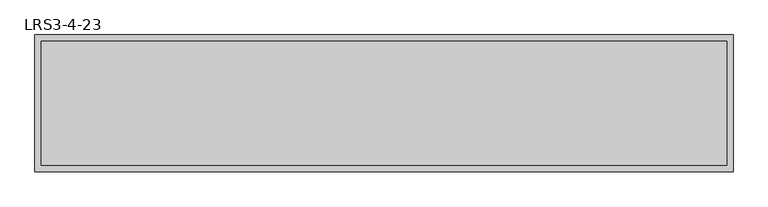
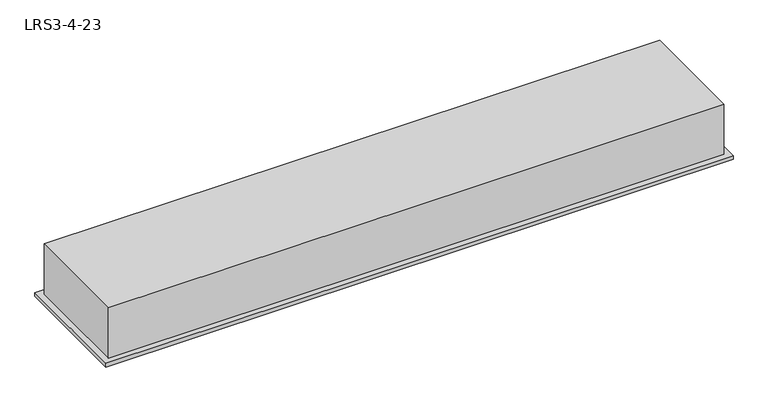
"""IFC4 building model written with IfcOpenShell, lengths in millimetres: light fixture geometry, 20401_RS3_ベースライト形_埋込天井灯 : LRS3-4-23."""

import ifcopenshell
import ifcopenshell.guid

model = None  # the IFC model being written
_history = None  # IfcOwnerHistory: only IFC2X3 demands one
_inside = {}  # id of a spatial element -> (the spatial element, [elements in it])
_under = {}  # id of a project, library or spatial element -> (it, [spatial elements below it])
_declared = {}  # id of a project -> (the project, [libraries it declares])
_typed = {}  # id of a type object -> (the type object, [elements of that type])
_made_of = {}  # id of a material, layer set ... -> (it, [elements and type objects made of it])


def new_model(schema):
    """Start an empty IFC model of exactly this schema.

    Asked for "IFC4X3", IfcOpenShell would pick the latest addendum, in which some entities
    have other attributes; the version numbers below select the first issue.
    IFC2X3 requires an IfcOwnerHistory on every rooted entity: one is made here for all.
    """
    global model, _history
    if schema == "IFC4X3":
        model = ifcopenshell.file(schema_version=(4, 3, 0, 0))
    else:
        model = ifcopenshell.file(schema=schema)
    _inside.clear()
    _under.clear()
    _declared.clear()
    _typed.clear()
    _made_of.clear()
    _history = None
    if model.schema == "IFC2X3":
        org = make("IfcOrganization", Name="unknown")
        user = make(
            "IfcPersonAndOrganization",
            ThePerson=make("IfcPerson", FamilyName="unknown"),
            TheOrganization=org,
        )
        app = make(
            "IfcApplication",
            ApplicationDeveloper=org,
            Version="unknown",
            ApplicationFullName="unknown",
            ApplicationIdentifier="unknown",
        )
        _history = make(
            "IfcOwnerHistory",
            OwningUser=user,
            OwningApplication=app,
            ChangeAction="ADDED",
            CreationDate=0,
        )
    return model


def make(cls, **values):
    """One entity of the class cls with the attributes given. An attribute that is None is left unset."""
    return model.create_entity(
        cls, **{name: value for name, value in values.items() if value is not None}
    )


def rooted(cls, **values):
    """An entity with a GlobalId (a new one), such as an element, a storey or a relation."""
    return make(cls, GlobalId=ifcopenshell.guid.new(), OwnerHistory=_history, **values)


def si_unit(unit_type, name, prefix=None):
    """IfcSIUnit, for example si_unit("LENGTHUNIT", "METRE", prefix="MILLI")."""
    return make("IfcSIUnit", UnitType=unit_type, Prefix=prefix, Name=name)


def assignment(units):
    """IfcUnitAssignment: the units of a project."""
    return None if units is None else make("IfcUnitAssignment", Units=units)


def point(xyz):
    """IfcCartesianPoint."""
    return None if xyz is None else make("IfcCartesianPoint", Coordinates=xyz)


def direction(xyz):
    """IfcDirection."""
    return None if xyz is None else make("IfcDirection", DirectionRatios=xyz)


def frame(location, z_axis=None, x_axis=None):
    """IfcAxis2Placement3D, a coordinate frame: its origin and axes. An axis left out is left unset."""
    return make(
        "IfcAxis2Placement3D",
        Location=point(location),
        Axis=direction(z_axis),
        RefDirection=direction(x_axis),
    )


def frame_2d(location, x_axis=None):
    """IfcAxis2Placement2D, a coordinate frame in the plane: its origin and x axis."""
    return make(
        "IfcAxis2Placement2D", Location=point(location), RefDirection=direction(x_axis)
    )


def origin():
    """The frame at (0, 0, 0) with its axes left unset."""
    return frame((0.0, 0.0, 0.0))


def place(relative_to, where):
    """IfcLocalPlacement: puts the frame where relative to a parent placement (None: the world)."""
    return make(
        "IfcLocalPlacement", PlacementRelTo=relative_to, RelativePlacement=where
    )


def context(
    kind, dimensions, precision=None, world=None, true_north=None, identifier=None
):
    """IfcGeometricRepresentationContext, for example the 3D "Model" context."""
    return make(
        "IfcGeometricRepresentationContext",
        ContextIdentifier=identifier,
        ContextType=kind,
        CoordinateSpaceDimension=dimensions,
        Precision=precision,
        WorldCoordinateSystem=world,
        TrueNorth=true_north,
    )


def project(units=None, contexts=None):
    """IfcProject with its units and contexts."""
    return rooted(
        "IfcProject",
        Name="project",
        RepresentationContexts=contexts,
        UnitsInContext=assignment(units),
    )


def spatial(cls, under=None, at=None, **own):
    """A site, building, storey or space (cls), placed at a placement, below another one or the project."""
    s = rooted(cls, ObjectPlacement=at, **own)
    if under is not None:
        _under.setdefault(under.id(), (under, []))[1].append(s)
    return s


def polyline(points):
    """IfcPolyline through the points."""
    return make("IfcPolyline", Points=[point(p) for p in points])


def circle_curve(where, radius):
    """IfcCircle in the frame where."""
    return make("IfcCircle", Position=where, Radius=radius)


def trimmed(basis, trim1, trim2, sense, master):
    """IfcTrimmedCurve: the piece of a basis curve between two trims."""
    return make(
        "IfcTrimmedCurve",
        BasisCurve=basis,
        Trim1=trim1,
        Trim2=trim2,
        SenseAgreement=sense,
        MasterRepresentation=master,
    )


def segment(curve, same_sense, transition):
    """IfcCompositeCurveSegment."""
    return make(
        "IfcCompositeCurveSegment",
        Transition=transition,
        SameSense=same_sense,
        ParentCurve=curve,
    )


def composite_curve(segments, self_intersect=None):
    """IfcCompositeCurve: segments joined end to end."""
    return make("IfcCompositeCurve", Segments=segments, SelfIntersect=self_intersect)


def outline(outer, holes=None, kind="AREA"):
    """IfcArbitraryClosedProfileDef: a profile drawn as a closed curve; with holes, ...WithVoids."""
    if holes is None:
        return make("IfcArbitraryClosedProfileDef", ProfileType=kind, OuterCurve=outer)
    return make(
        "IfcArbitraryProfileDefWithVoids",
        ProfileType=kind,
        OuterCurve=outer,
        InnerCurves=holes,
    )


def extrude(swept, where, along, depth):
    """IfcExtrudedAreaSolid: the profile swept, set in the frame where, extruded along a direction by depth."""
    return make(
        "IfcExtrudedAreaSolid",
        SweptArea=swept,
        Position=where,
        ExtrudedDirection=direction(along),
        Depth=depth,
    )


def faces_of(points, faces, orient=None, outer=None):
    """IfcFace entities. A face is a list of loops; a loop is a list of indices into points, from 0.

    orient and outer hold one flag for each loop. By default every Orientation is true, the
    first loop of a face is its IfcFaceOuterBound and the others are IfcFaceBound.
    """
    made = []
    for i, loops in enumerate(faces):
        bounds = []
        for j, loop in enumerate(loops):
            is_outer = j == 0 if outer is None else outer[i][j]
            bounds.append(
                make(
                    "IfcFaceOuterBound" if is_outer else "IfcFaceBound",
                    Bound=make("IfcPolyLoop", Polygon=[points[k] for k in loop]),
                    Orientation=True if orient is None else orient[i][j],
                )
            )
        made.append(make("IfcFace", Bounds=bounds))
    return made


def faceted_brep(points, faces, orient=None, outer=None, voids=None):
    """IfcFacetedBrep: a solid bounded by flat faces; with voids (closed shells), ...WithVoids."""
    shared = [point(p) for p in points]
    hull = make("IfcClosedShell", CfsFaces=faces_of(shared, faces, orient, outer))
    if voids is None:
        return make("IfcFacetedBrep", Outer=hull)
    return make(
        "IfcFacetedBrepWithVoids",
        Outer=hull,
        Voids=[
            make(cls, CfsFaces=faces_of(shared, fs, o, b)) for cls, fs, o, b in voids
        ],
    )


def shape(context_of_items, identifier, shape_type, items):
    """IfcShapeRepresentation: the items that make up one representation, for example the "Body"."""
    return make(
        "IfcShapeRepresentation",
        ContextOfItems=context_of_items,
        RepresentationIdentifier=identifier,
        RepresentationType=shape_type,
        Items=items,
    )


def source(mapping_origin, context_of_items, identifier, shape_type, items):
    """IfcRepresentationMap: a shape defined once, which mapped items show again and again."""
    return make(
        "IfcRepresentationMap",
        MappingOrigin=mapping_origin,
        MappedRepresentation=shape(context_of_items, identifier, shape_type, items),
    )


def transform(
    local_origin,
    x_axis=None,
    y_axis=None,
    z_axis=None,
    scale=None,
    scale2=None,
    scale3=None,
    uniform=True,
):
    """IfcCartesianTransformationOperator3D, or its non-uniform kind. x_axis, y_axis, z_axis: its Axis1, 2, 3."""
    if uniform:
        return make(
            "IfcCartesianTransformationOperator3D",
            Axis1=direction(x_axis),
            Axis2=direction(y_axis),
            LocalOrigin=point(local_origin),
            Scale=scale,
            Axis3=direction(z_axis),
        )
    return make(
        "IfcCartesianTransformationOperator3DnonUniform",
        Axis1=direction(x_axis),
        Axis2=direction(y_axis),
        LocalOrigin=point(local_origin),
        Scale=scale,
        Axis3=direction(z_axis),
        Scale2=scale2,
        Scale3=scale3,
    )


def mapped(mapping_source, mapping_target):
    """IfcMappedItem: shows the shape of a source again, moved by a transform."""
    return make(
        "IfcMappedItem", MappingSource=mapping_source, MappingTarget=mapping_target
    )


def made_of(thing, what):
    """Note that an element or type object is made of a material, layer set ...; save() writes the relation."""
    if what is not None:
        _made_of.setdefault(what.id(), (what, []))[1].append(thing)
    return thing


def element(
    cls,
    number,
    at=None,
    inside=None,
    cuts=None,
    type_object=None,
    material=None,
    context=None,
    identifier="Body",
    shape_type=None,
    held_by="IfcProductDefinitionShape",
    body=None,
    shapes=None,
    **own,
):
    """One element of the class cls, such as IfcWall. Its Tag is "e" and its number.

    at: its placement. inside: the storey or other place that contains it. cuts: it is an
    opening in that element (IfcRelVoidsElement). A single representation is given by context,
    identifier, shape_type and body (its items); several are given by shapes. held_by: the class
    of the entity that holds the representations. save() writes the other relations.
    """
    e = rooted(cls, Tag="e%d" % number, ObjectPlacement=at, **own)
    if body is not None:
        shapes = [shape(context, identifier, shape_type, body)]
    if shapes is not None:
        e.Representation = make(held_by, Representations=shapes)
    if inside is not None:
        _inside.setdefault(inside.id(), (inside, []))[1].append(e)
    if cuts is not None:
        rooted(
            "IfcRelVoidsElement", RelatingBuildingElement=cuts, RelatedOpeningElement=e
        )
    if type_object is not None:
        _typed.setdefault(type_object.id(), (type_object, []))[1].append(e)
    return made_of(e, material)


def aggregate(whole, parts):
    """IfcRelAggregates: a whole, such as a stair, and the parts it consists of."""
    return rooted("IfcRelAggregates", RelatingObject=whole, RelatedObjects=parts)


def save(model, path):
    """Write the relations noted so far, then the file.

    IfcRelAggregates (storeys below a building ...), IfcRelContainedInSpatialStructure (elements
    in a storey), IfcRelDefinesByType, IfcRelAssociatesMaterial and IfcRelDeclares: one each for
    every whole, place, type object, material and project.
    """
    for whole, parts in _under.values():
        aggregate(whole, parts)
    for where, things in _inside.values():
        rooted(
            "IfcRelContainedInSpatialStructure",
            RelatedElements=things,
            RelatingStructure=where,
        )
    for kind, things in _typed.values():
        rooted("IfcRelDefinesByType", RelatedObjects=things, RelatingType=kind)
    for what, things in _made_of.values():
        rooted("IfcRelAssociatesMaterial", RelatedObjects=things, RelatingMaterial=what)
    for by, libraries in _declared.values():
        rooted("IfcRelDeclares", RelatingContext=by, RelatedDefinitions=libraries)
    model.write(path)


def lrs3_4_23_6d0beab3(model_context):
    return source(origin(), model_context, "Body", "SolidModel", [
        extrude(outline(composite_curve([segment(trimmed(circle_curve(frame_2d((0.0229203, 51.1288677)), 50.1288729), [point((37.6444836, 18.0))], [point((-37.5986431, 18.0))], False, "CARTESIAN"), True, "CONTINUOUS"), segment(polyline([(-37.5986431, 18.0), (37.6444836, 18.0)]), True, "CONTINUOUS")], self_intersect=False)), frame((-635.0, 0.0, 0.0), z_axis=(1.0, 0.0, 0.0), x_axis=(0.0, 1.0, 0.0)), (0.0, 0.0, 1.0), 1270.0),
        faceted_brep([(638.0, 115.5, -8.0), (638.0, 115.5, 102.0), (638.0, -115.5, 102.0), (638.0, -115.5, -8.0), (-638.0, 115.5, -8.0), (-638.0, -115.5, -8.0), (-638.0, -115.5, 102.0), (-638.0, 115.5, 102.0), (635.0, -112.5, -8.0), (635.0, 112.5, -8.0), (-635.0, 112.5, -8.0), (-635.0, -112.5, -8.0), (635.0, -37.5, 18.0), (635.0, 37.5, 18.0), (-635.0, 37.5, 18.0), (-635.0, -37.5, 18.0)], [[[0, 1, 2, 3]], [[4, 5, 6, 7]], [[1, 0, 4, 7]], [[2, 1, 7, 6]], [[3, 2, 6, 5]], [[0, 3, 5, 4], [8, 9, 10, 11]], [[8, 12, 13, 9]], [[10, 14, 15, 11]], [[9, 13, 14, 10]], [[13, 12, 15, 14]], [[12, 8, 11, 15]]]),
        faceted_brep([(650.0, -127.5, -8.0), (650.0, 127.5, -8.0), (-650.0, 127.5, -8.0), (-650.0, -127.5, -8.0), (635.0, -112.5, -8.0), (-635.0, -112.5, -8.0), (-635.0, 112.5, -8.0), (635.0, 112.5, -8.0), (650.0, -127.5, -16.0), (-650.0, -127.5, -16.0), (-650.0, 127.5, -16.0), (650.0, 127.5, -16.0), (635.0, -112.5, -16.0), (635.0, 112.5, -16.0), (-635.0, 112.5, -16.0), (-635.0, -112.5, -16.0), (635.0, -112.5, -12.0), (-635.0, -112.5, -12.0), (-635.0, 112.5, -12.0), (635.0, 112.5, -12.0)], [[[0, 1, 2, 3], [4, 5, 6, 7]], [[8, 9, 10, 11], [12, 13, 14, 15]], [[1, 0, 8, 11]], [[2, 1, 11, 10]], [[3, 2, 10, 9]], [[0, 3, 9, 8]], [[5, 4, 16, 12, 15, 17]], [[6, 5, 17, 15, 14, 18]], [[7, 6, 18, 14, 13, 19]], [[4, 7, 19, 13, 12, 16]]]),
    ])


if __name__ == "__main__":
    model = new_model("IFC4")
    model_context = context("Model", 3, world=origin())
    ifc_project = project(units=[si_unit("LENGTHUNIT", "METRE", prefix="MILLI")], contexts=[model_context])
    site = spatial("IfcSite", under=ifc_project)
    building = spatial("IfcBuilding", under=site)
    placement = place(None, origin())
    lrs3_4_23_shape = lrs3_4_23_6d0beab3(model_context)
    element("IfcLightFixture", 1, ObjectType="20401_RS3_ベースライト形_埋込天井灯 : LRS3-4-23", at=placement, inside=building, context=model_context, shape_type="MappedRepresentation", body=[
        mapped(lrs3_4_23_shape, transform((0.0, 0.0, 0.0), x_axis=(1.0, 0.0, 0.0), y_axis=(0.0, 1.0, 0.0), z_axis=(0.0, 0.0, 1.0))),
    ])
    save(model, "model.ifc")
